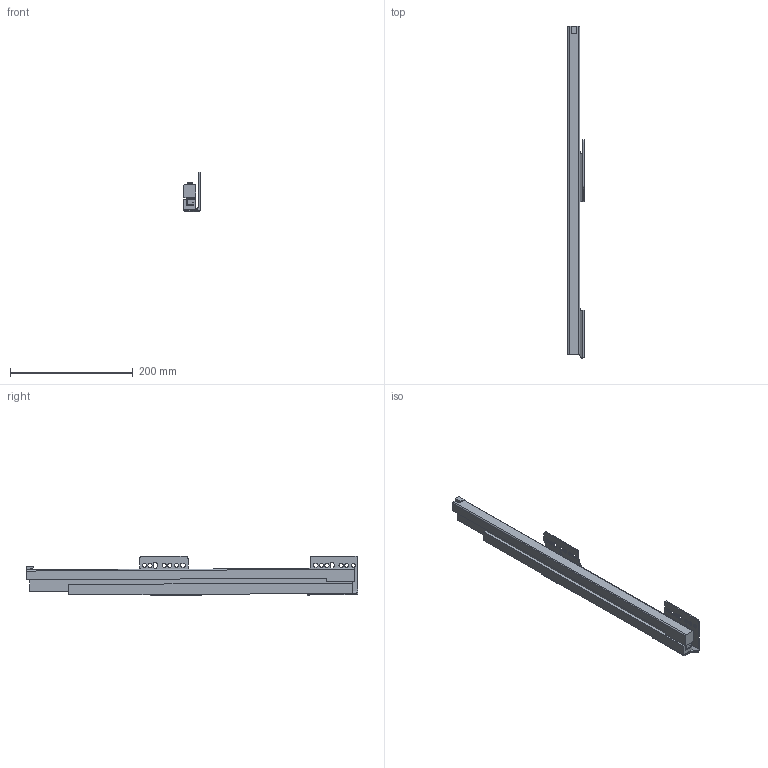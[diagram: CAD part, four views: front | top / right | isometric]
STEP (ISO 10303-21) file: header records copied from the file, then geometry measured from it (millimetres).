
FILE_DESCRIPTION (( 'STEP AP214' ), '1' );
FILE_NAME ('_IMOS_NOVA-Pro_KS_P907_RE_NL550_EB29.step', '2010-07-06T08:29:00', ( 'grass' ), ( '' ), 'SwSTEP 2.0', 'SolidWorks 2009', '' );
FILE_SCHEMA (( 'AUTOMOTIVE_DESIGN' ));
Length unit declared in the file: millimetre
Products named in the file (1): _IMOS_NOVA-Pro_KS_P907_RE_NL550_EB29
Bounding box: 26.75 x 540.34 x 64.46 mm (x, y, z)
Volume: 414711.6 mm3; surface area: 169393.4 mm2
Topology: 6 solids, 6 shells, 144 faces, 392 edges, 260 vertices
Faces by surface type: plane 89, cylinder 55
Entity records: 4691 total; most frequent: CARTESIAN_POINT 848, ORIENTED_EDGE 784, DIRECTION 765, EDGE_CURVE 392, LINE 275, VECTOR 275, VERTEX_POINT 260, AXIS2_PLACEMENT_3D 245
